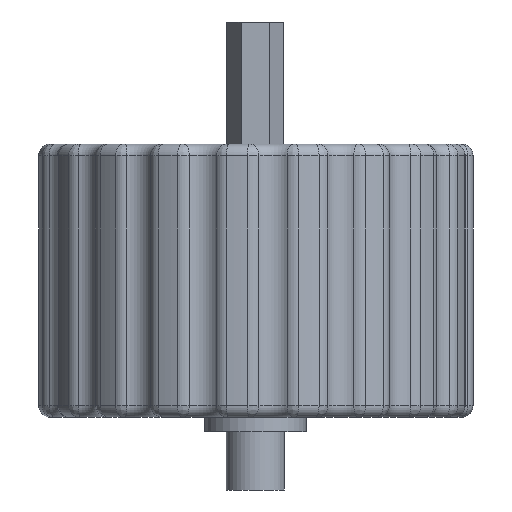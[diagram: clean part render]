
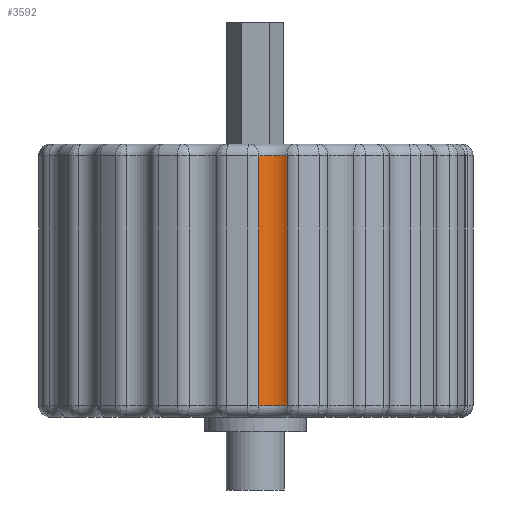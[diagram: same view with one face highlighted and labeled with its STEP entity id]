
A CAD part, front view. The second image highlights one B-rep face of the part: STEP entity #3592.
In plain terms, the highlighted cylindrical face has radius 0.75 mm (diameter 1.5 mm), a partial arc.
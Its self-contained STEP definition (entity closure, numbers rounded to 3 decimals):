
#84=LINE('',#7255,#180);
#85=LINE('',#7257,#181);
#180=VECTOR('',#5508,10.);
#181=VECTOR('',#5511,10.);
#276=CYLINDRICAL_SURFACE('',#4237,0.75);
#583=FACE_OUTER_BOUND('',#825,.T.);
#825=EDGE_LOOP('',(#3101,#3102,#3103,#3104));
#925=CIRCLE('',#3724,0.75);
#1268=CIRCLE('',#4163,0.75);
#1363=VERTEX_POINT('',#5835);
#1365=VERTEX_POINT('',#5841);
#1592=VERTEX_POINT('',#7055);
#1594=VERTEX_POINT('',#7061);
#1705=EDGE_CURVE('',#1365,#1363,#925,.T.);
#2087=EDGE_CURVE('',#1594,#1592,#1268,.T.);
#2152=EDGE_CURVE('',#1592,#1365,#84,.T.);
#2153=EDGE_CURVE('',#1363,#1594,#85,.T.);
#3101=ORIENTED_EDGE('',*,*,#1705,.F.);
#3102=ORIENTED_EDGE('',*,*,#2152,.F.);
#3103=ORIENTED_EDGE('',*,*,#2087,.F.);
#3104=ORIENTED_EDGE('',*,*,#2153,.F.);
#3592=ADVANCED_FACE('',(#583),#276,.F.);
#3724=AXIS2_PLACEMENT_3D('',#5843,#4427,#4428);
#4163=AXIS2_PLACEMENT_3D('',#7063,#5344,#5345);
#4237=AXIS2_PLACEMENT_3D('',#7256,#5509,#5510);
#4427=DIRECTION('center_axis',(0.,0.,1.));
#4428=DIRECTION('ref_axis',(-0.083,0.997,0.));
#5344=DIRECTION('center_axis',(0.,0.,-1.));
#5345=DIRECTION('ref_axis',(-0.083,0.997,0.));
#5508=DIRECTION('',(0.,0.,-1.));
#5509=DIRECTION('center_axis',(0.,0.,1.));
#5510=DIRECTION('ref_axis',(-0.083,0.997,0.));
#5511=DIRECTION('',(0.,0.,1.));
#5835=CARTESIAN_POINT('',(0.118,-7.347,0.4));
#5841=CARTESIAN_POINT('',(1.093,-7.266,0.4));
#5843=CARTESIAN_POINT('Origin',(0.652,-7.873,0.4));
#7055=CARTESIAN_POINT('',(1.093,-7.266,9.));
#7061=CARTESIAN_POINT('',(0.118,-7.347,9.));
#7063=CARTESIAN_POINT('Origin',(0.652,-7.873,9.));
#7255=CARTESIAN_POINT('',(1.093,-7.266,0.));
#7256=CARTESIAN_POINT('Origin',(0.652,-7.873,0.));
#7257=CARTESIAN_POINT('',(0.118,-7.347,0.));
